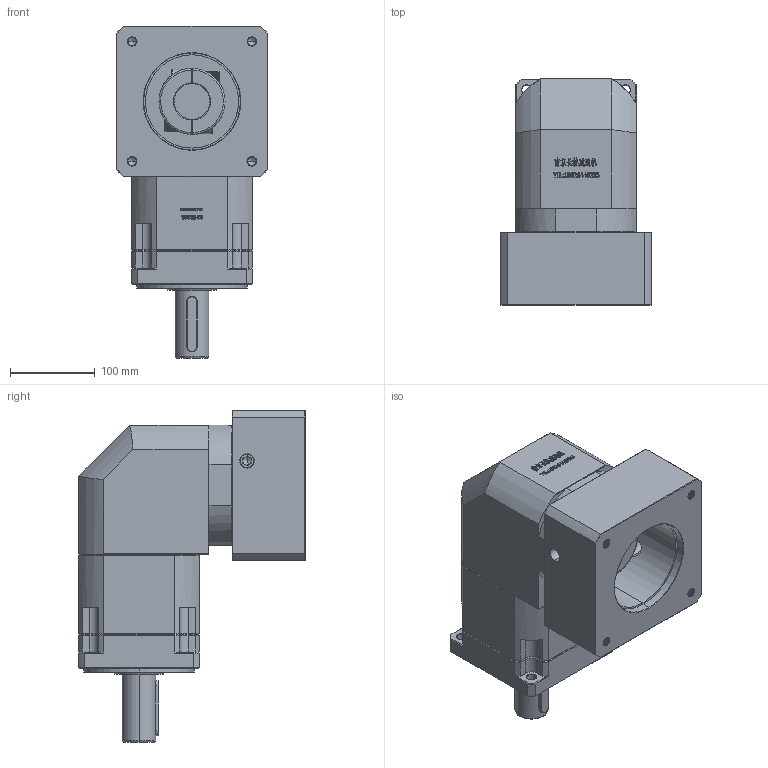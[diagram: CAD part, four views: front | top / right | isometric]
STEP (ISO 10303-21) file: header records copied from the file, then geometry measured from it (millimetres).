
FILE_DESCRIPTION (( 'STEP AP214' ), '1' );
FILE_NAME ('ZBR142A-D40-L2-42-114.3-200-M12.step', '2023-03-18T09:23:27', ( '' ), ( '' ), 'SwSTEP 2.0', 'SolidWorks 2016', '' );
FILE_SCHEMA (( 'AUTOMOTIVE_DESIGN' ));
Length unit declared in the file: millimetre
Products named in the file (1): ZBR142A-D40-L2-42-114.3-200-M12
Bounding box: 178 x 267 x 391.7 mm (x, y, z)
Volume: 7546891.4 mm3; surface area: 482833.1 mm2
Topology: 6 solids, 6 shells, 2900 faces, 7713 edges, 4962 vertices
Faces by surface type: plane 1540, bspline 592, cylinder 414, cone 332, torus 22
Entity records: 162195 total; most frequent: CARTESIAN_POINT 62821, ORIENTED_EDGE 15366, DIRECTION 11628, EDGE_CURVE 7683, LINE 5214, VECTOR 5214, VERTEX_POINT 4962, AXIS2_PLACEMENT_3D 3207
